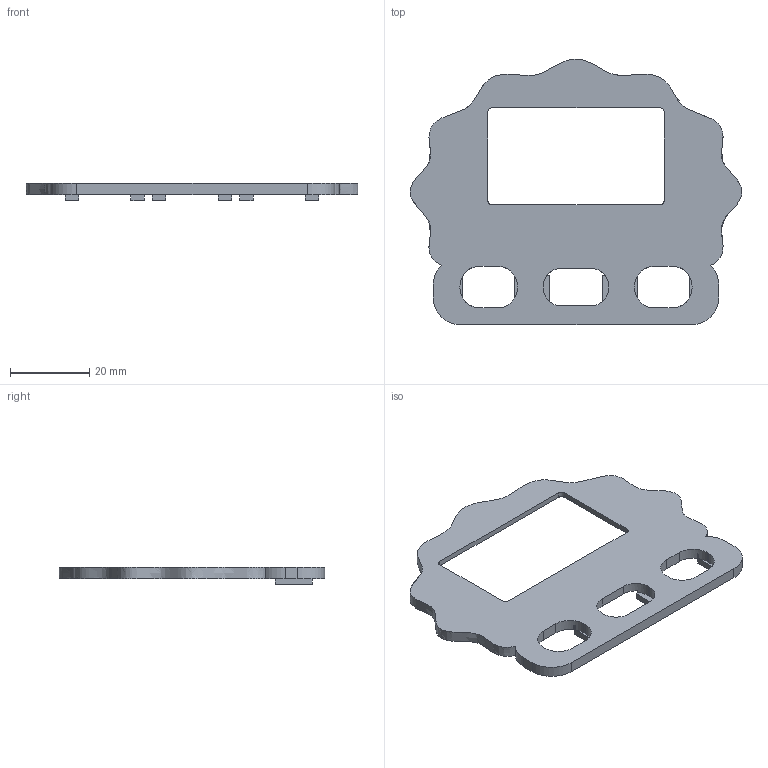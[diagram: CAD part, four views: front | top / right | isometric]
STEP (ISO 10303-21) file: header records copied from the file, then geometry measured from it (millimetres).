
FILE_DESCRIPTION(('FreeCAD Model'),'2;1');
FILE_NAME('Open CASCADE Shape Model','2026-11-13T18:42:22',('FreeCAD'),( 'FreeCAD'),'Open CASCADE STEP processor 7.8','FreeCAD','Unknown');
FILE_SCHEMA(('AUTOMOTIVE_DESIGN { 1 0 10303 214 1 1 1 1 }'));
Length unit declared in the file: millimetre
Products named in the file (1): Open CASCADE STEP translator 7.8 5
Bounding box: 83.6 x 66.94 x 4.3 mm (x, y, z)
Volume: 7451.2 mm3; surface area: 7833.5 mm2
Topology: 1 solids, 1 shells, 125 faces, 341 edges, 224 vertices
Faces by surface type: plane 93, cylinder 30, extrusion 2
Full cylindrical faces by diameter (mm): 1 x4
Entity records: 4831 total; most frequent: CARTESIAN_POINT 1575, ORIENTED_EDGE 682, DIRECTION 663, EDGE_CURVE 341, VECTOR 259, LINE 257, VERTEX_POINT 224, AXIS2_PLACEMENT_3D 202
